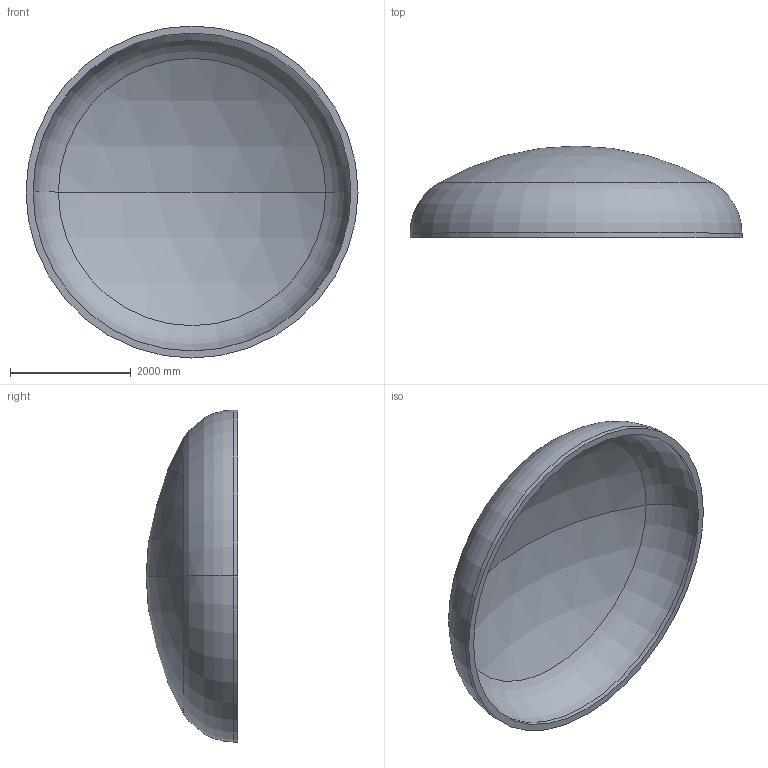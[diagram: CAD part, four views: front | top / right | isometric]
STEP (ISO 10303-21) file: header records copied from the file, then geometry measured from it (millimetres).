
FILE_DESCRIPTION (( 'STEP AP203' ), '1' );
FILE_NAME ('DIN 28013 Korbbogenform_-_Boden DIN 28013 - 5500 x 75 - I - s=116.step', '2016-07-04T10:35:25', ( '' ), ( '' ), 'SwSTEP 2.0', 'SolidWorks 2013', '' );
FILE_SCHEMA (( 'CONFIG_CONTROL_DESIGN' ));
Length unit declared in the file: millimetre
Products named in the file (1): DIN 28013 Korbbogenform_-_Boden DIN 28013 - 5500 x 75 - I - s=116
Bounding box: 5500 x 1518.95 x 5500 mm (x, y, z)
Volume: 3857934461.2 mm3; surface area: 68506332 mm2
Topology: 1 solids, 1 shells, 13 faces, 24 edges, 14 vertices
Faces by surface type: torus 4, cylinder 4, sphere 4, plane 1
Entity records: 407 total; most frequent: DIRECTION 72, CARTESIAN_POINT 52, ORIENTED_EDGE 48, AXIS2_PLACEMENT_3D 34, EDGE_CURVE 24, CIRCLE 20, EDGE_LOOP 14, VERTEX_POINT 14
